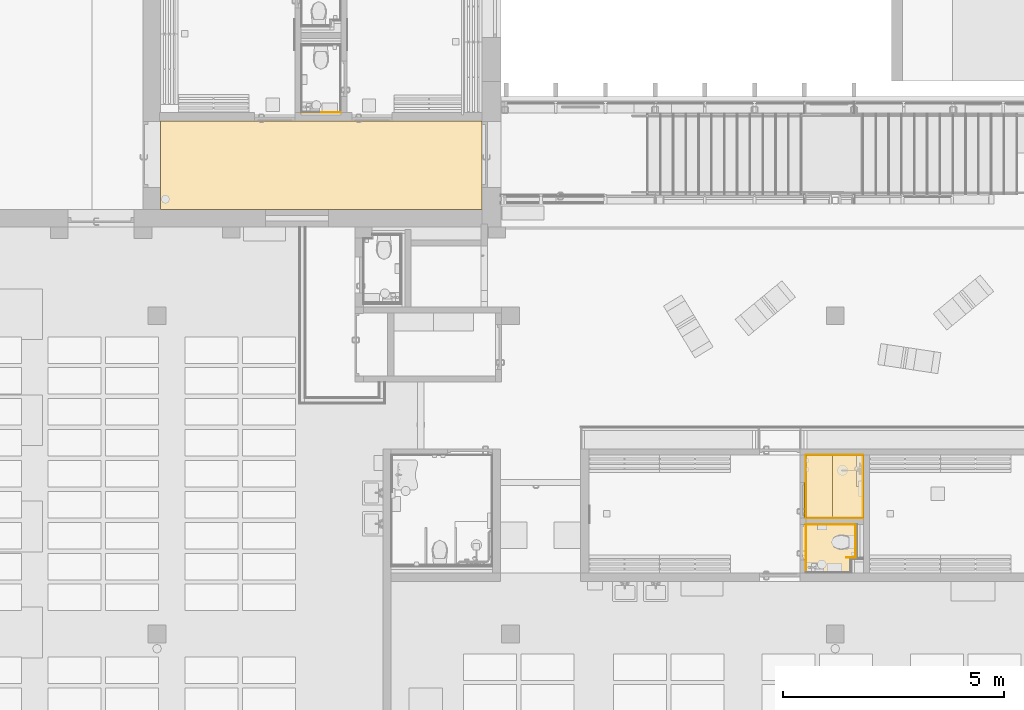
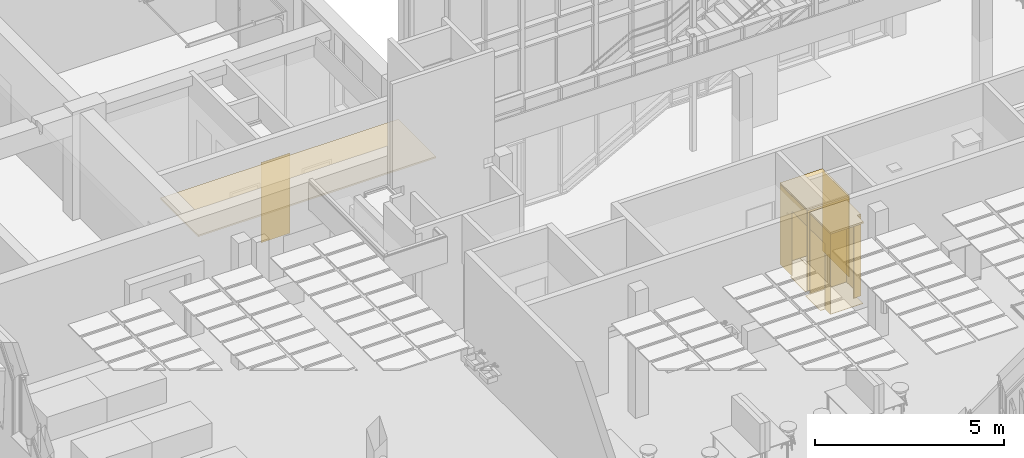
# One storey, part 234 of 301: 15 coverings, 2 openings.
"""IFC2X3 building model written with IfcOpenShell, lengths in millimetres."""

from ifc_helpers import new_model, entity, si_unit, converted_unit, derived_unit, money_unit, direction, frame, origin_with_axes, place, context, subcontext, project, spatial, faceted_brep, material, type_object, element, save


model = new_model("IFC2X3")

# Units and contexts
model_context = context("Model", 3, precision=0.01, world=origin_with_axes(), true_north=direction((0.0, 1.0)))
body_context = subcontext(model_context, "Body", "Model", "MODEL_VIEW")
ifc_project = project(units=[si_unit("LENGTHUNIT", "METRE", prefix="MILLI"), si_unit("AREAUNIT", "SQUARE_METRE"), si_unit("VOLUMEUNIT", "CUBIC_METRE"), converted_unit("PLANEANGLEUNIT", "DEGREE", entity("IfcPlaneAngleMeasure", 0.0174532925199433), si_unit("PLANEANGLEUNIT", "RADIAN"), dimensions=[0, 0, 0, 0, 0, 0, 0]), money_unit("EUR"), converted_unit("TIMEUNIT", "Year", entity("IfcTimeMeasure", 31557600.0), si_unit("TIMEUNIT", "SECOND"), dimensions=[0, 0, 1, 0, 0, 0, 0]), si_unit("MASSUNIT", "GRAM", prefix="KILO"), si_unit("THERMODYNAMICTEMPERATUREUNIT", "DEGREE_CELSIUS"), si_unit("LUMINOUSINTENSITYUNIT", "LUMEN"), si_unit("ENERGYUNIT", "JOULE", prefix="MEGA"), derived_unit("THERMALCONDUCTANCEUNIT", [(si_unit("POWERUNIT", "WATT"), 1), (si_unit("LENGTHUNIT", "METRE"), -1), (si_unit("THERMODYNAMICTEMPERATUREUNIT", "KELVIN"), -1)]), derived_unit("SPECIFICHEATCAPACITYUNIT", [(si_unit("ENERGYUNIT", "JOULE"), 1), (si_unit("MASSUNIT", "GRAM", prefix="KILO"), -1), (si_unit("THERMODYNAMICTEMPERATUREUNIT", "KELVIN"), -1)]), derived_unit("MASSDENSITYUNIT", [(si_unit("MASSUNIT", "GRAM", prefix="KILO"), 1), (si_unit("VOLUMEUNIT", "CUBIC_METRE"), -1)])], contexts=[model_context])

# Site, building, storey
site_placement = place(None, frame((0.0, 0.0, 8650.0), z_axis=(0.0, 0.0, 1.0), x_axis=(1.0, 0.0, 0.0)))
site = spatial("IfcSite", under=ifc_project, at=site_placement, Name="43301:001:0844", CompositionType="ELEMENT")
building_placement = place(site_placement, origin_with_axes())
building = spatial("IfcBuilding", under=site, at=building_placement, Name="Kuressaare Ametikooli tuulikute mehaanikute õppekorpus", CompositionType="ELEMENT")
storey_placement = place(building_placement, origin_with_axes())
storey = spatial("IfcBuildingStorey", under=building, at=storey_placement, Name="1.korrus", CompositionType="ELEMENT", Elevation=0.0)

# Coverings
ifc_material_1 = material(Name="GENEERILINE - KONSTRUKTRIOON")
covering_type_1 = type_object("IfcCoveringType", Name="GENEERILINE - KONSTRUKTRIOON 50", PredefinedType="CEILING")
covering_1_placement = place(storey_placement, frame((110555.5119581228, 19194.83585993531, 2600.0), z_axis=(0.0, 0.0, 1.0), x_axis=(1.0, 0.0, 0.0)))
element("IfcCovering", 1, at=covering_1_placement, inside=storey, type_object=covering_type_1, material=ifc_material_1, Name="RL2", PredefinedType="CEILING", context=body_context, shape_type="Brep", body=[
    faceted_brep([(0.0, 0.0, 49.99999999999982), (0.0, 0.0, 0.0), (1300.000321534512, 0.0, 0.0), (1300.000321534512, 0.0, 49.99999999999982), (0.0, 1430.000053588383, 49.99999999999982), (0.0, 1430.000053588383, 0.0), (1300.000321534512, 1430.000053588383, 0.0), (1300.000321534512, 1430.000053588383, 49.99999999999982)], [[[0, 1, 2, 3]], [[4, 5, 1, 0]], [[2, 1, 5, 6]], [[3, 2, 6, 7]], [[4, 0, 3, 7]], [[7, 6, 5, 4]]]),
])
covering_2_placement = place(storey_placement, frame((110555.512449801, 17954.83551160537, 2600.0), z_axis=(0.0, 0.0, 1.0), x_axis=(1.0, 0.0, 0.0)))
element("IfcCovering", 2, at=covering_2_placement, inside=storey, type_object=covering_type_1, material=ifc_material_1, Name="RL2", PredefinedType="CEILING", context=body_context, shape_type="Brep", body=[
    faceted_brep([(0.0, 0.0, 49.99999999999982), (0.0, 0.0, 0.0), (1009.999043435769, 0.0, 0.0), (1009.999043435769, 0.0, 49.99999999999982), (0.0, 1100.000367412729, 49.99999999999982), (0.0, 1100.000367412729, 0.0), (1130.000147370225, 1100.000367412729, 0.0), (1130.000078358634, 340.0016125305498, 0.0), (1009.998974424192, 340.0015881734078, 0.0), (1009.998974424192, 340.0015881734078, 49.99999999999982), (1130.000078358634, 340.0016125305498, 49.99999999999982), (1130.000147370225, 1100.000367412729, 49.99999999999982)], [[[0, 1, 2, 3]], [[4, 5, 1, 0]], [[2, 1, 5, 6, 7, 8]], [[3, 2, 8, 9]], [[4, 0, 3, 9, 10, 11]], [[11, 6, 5, 4]], [[10, 7, 6, 11]], [[9, 8, 7, 10]]]),
])
covering_3_placement = place(storey_placement, frame((95947.90111654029, 26183.06892395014, 2640.000017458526), z_axis=(0.0, 0.0, 1.0), x_axis=(1.0, 0.0, 0.0)))
element("IfcCovering", 3, at=covering_3_placement, inside=storey, type_object=covering_type_1, material=ifc_material_1, Name="RL1", PredefinedType="CEILING", context=body_context, shape_type="Brep", body=[
    faceted_brep([(0.0, 0.0, 49.99999999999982), (0.0, 0.0, 0.0), (7279.61109049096, 0.0, 0.0), (7279.61109049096, 0.0, 49.99999999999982), (0.0, 1999.999999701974, 49.99999999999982), (0.0, 1999.999999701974, 0.0), (7279.61109049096, 1999.999999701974, 0.0), (7279.61109049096, 1999.999999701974, 49.99999999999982)], [[[0, 1, 2, 3]], [[4, 5, 1, 0]], [[2, 1, 5, 6]], [[3, 2, 6, 7]], [[4, 0, 3, 7]], [[7, 6, 5, 4]]]),
])
ifc_material_2 = material(Name="SA_viimistluskiht")
covering_type_2 = type_object("IfcCoveringType", Name="SA_viimistluskiht 10", PredefinedType="CLADDING")
covering_4_placement = place(storey_placement, frame((111855.5122796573, 20624.83591352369, 0.0), z_axis=(0.0, 0.0, 1.0), x_axis=(9.45991917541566e-08, -0.9999999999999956, 0.0)))
element("IfcCovering", 4, at=covering_4_placement, inside=storey, type_object=covering_type_2, material=ifc_material_2, Name="S3", PredefinedType="CLADDING", context=body_context, shape_type="Brep", body=[
    faceted_brep([(1420.000052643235, -10.00013433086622, 2600.0), (1420.000053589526, 0.003019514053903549, 2600.0), (9.999999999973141, 2.126421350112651e-05, 2600.0), (10.00000042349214, -10.0000009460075, 2600.0), (1420.000053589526, 0.003019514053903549, 0.0), (1420.000052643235, -10.00013433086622, 0.0), (9.999999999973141, 2.126421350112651e-05, 0.0), (10.00000042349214, -10.0000009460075, 0.0)], [[[0, 1, 2, 3]], [[4, 1, 0, 5]], [[1, 4, 6, 2]], [[3, 2, 6, 7]], [[5, 0, 3, 7]], [[4, 5, 7, 6]]]),
])
covering_5_placement = place(storey_placement, frame((111855.5122796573, 20624.83591352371, 0.0), z_axis=(0.0, 0.0, 1.0), x_axis=(-0.9999999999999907, -1.369512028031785e-07, 0.0)))
element("IfcCovering", 5, at=covering_5_placement, inside=storey, type_object=covering_type_2, material=ifc_material_2, Name="S3", PredefinedType="CLADDING", context=body_context, shape_type="Brep", body=[
    faceted_brep([(1290.000321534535, -0.0006564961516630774, 0.0), (1290.000321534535, -0.0006564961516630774, 2600.0), (1.335820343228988e-09, -0.0006564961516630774, 2600.0), (1.335820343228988e-09, -0.0006564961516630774, 0.0), (1290.000321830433, 10.00000000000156, 2600.0), (1290.000321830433, 10.00000000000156, 0.0), (-2.084070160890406e-05, 10.00000000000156, 2600.0), (-2.084070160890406e-05, 10.00000000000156, 0.0)], [[[0, 1, 2, 3]], [[4, 1, 0, 5]], [[1, 4, 6, 2]], [[3, 2, 6, 7]], [[5, 0, 3, 7]], [[4, 5, 7, 6]]]),
])
covering_6_placement = place(storey_placement, frame((111855.5124149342, 19194.83585993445, 0.0), z_axis=(0.0, 0.0, 1.0), x_axis=(-0.999999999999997, -7.777395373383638e-08, 0.0)))
element("IfcCovering", 6, at=covering_6_placement, inside=storey, type_object=covering_type_2, material=ifc_material_2, Name="S3", PredefinedType="CLADDING", context=body_context, shape_type="Brep", body=[
    faceted_brep([(1290.000303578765, -10.00010032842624, 0.0), (1290.000303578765, -10.00010032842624, 2600.0), (-0.003019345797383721, -9.999999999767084, 2600.0), (-0.003019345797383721, -9.999999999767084, 0.0), (1290.000303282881, -2.958913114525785e-07, 2600.0), (1290.000303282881, -2.958913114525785e-07, 0.0), (-0.003040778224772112, 2.344791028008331e-10, 2600.0), (-0.003040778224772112, 2.344791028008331e-10, 0.0)], [[[0, 1, 2, 3]], [[4, 1, 0, 5]], [[1, 4, 6, 2]], [[3, 2, 6, 7]], [[5, 0, 3, 7]], [[4, 5, 7, 6]]]),
])

# Covering, opening
covering_7_placement = place(storey_placement, frame((110555.512226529, 17954.83717730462, 0.0), z_axis=(0.0, 0.0, 1.0), x_axis=(-1.073625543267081e-07, 0.9999999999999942, 0.0)))
covering_7 = element("IfcCovering", 7, at=covering_7_placement, inside=storey, type_object=covering_type_2, material=ifc_material_2, Name="S3", PredefinedType="CLADDING", context=body_context, shape_type="Brep", body=[
    faceted_brep([(289.9983343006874, -10.00000000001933, 0.0), (289.9983343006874, -10.00000000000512, 2110.0), (1089.998290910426, -10.00000000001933, 2110.0), (1089.998290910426, -10.00000000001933, 2600.0), (9.999987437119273, -10.00000000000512, 2600.0), (9.999987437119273, -10.00000000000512, 0.0), (289.9983343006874, 0.0, 0.0), (289.9983343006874, 0.0, 2110.0), (1089.998288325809, 0.0, 2110.0), (1089.998288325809, -0.0002278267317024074, 2600.0), (9.999999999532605, -0.0003733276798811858, 2600.0), (9.999999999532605, -0.0003733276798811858, 0.0)], [[[0, 1, 2, 3, 4, 5]], [[1, 0, 6, 7]], [[8, 2, 1, 7]], [[2, 8, 9, 3]], [[4, 3, 9, 10]], [[4, 10, 11, 5]], [[6, 0, 5, 11]], [[7, 6, 11, 10, 9, 8]]]),
])
opening_1_placement = place(covering_7_placement, frame((694.9983343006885, 0.0, 0.0), z_axis=(0.0, 0.0, 1.0), x_axis=(1.0, 0.0, 0.0)))
element("IfcOpeningElement", 8, at=opening_1_placement, cuts=covering_7, Name="ava", context=body_context, shape_type="Brep", body=[
    faceted_brep([(-405.0000000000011, 0.0, 2110.0), (404.9999999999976, 0.0, 2110.0), (405.0000000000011, 1.000118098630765, 2110.0), (-405.0000000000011, 1.000118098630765, 2110.0), (-405.0000000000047, -11.00011809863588, 2110.0), (404.9999999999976, -11.00011809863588, 2110.0), (404.9999999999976, 0.0, 0.0), (405.0000000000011, 1.000118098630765, 0.0), (-405.0000000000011, 1.000118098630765, 0.0), (-405.0000000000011, 0.0, 0.0), (-405.0000000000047, -11.00011809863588, 0.0), (404.9999999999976, -11.00011809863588, 0.0)], [[[0, 1, 2, 3]], [[1, 0, 4, 5]], [[1, 6, 7, 2]], [[7, 8, 3, 2]], [[9, 0, 3, 8]], [[0, 9, 10, 4]], [[4, 10, 11, 5]], [[6, 1, 5, 11]], [[6, 9, 8, 7]], [[9, 6, 11, 10]]]),
])

covering_8_placement = place(storey_placement, frame((110555.5121116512, 19194.83575882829, 0.0), z_axis=(0.0, 0.0, 1.0), x_axis=(-1.073625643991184e-07, 0.9999999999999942, 0.0)))
covering_8 = element("IfcCovering", 9, at=covering_8_placement, inside=storey, type_object=covering_type_2, material=ifc_material_2, Name="S3", PredefinedType="CLADDING", context=body_context, shape_type="Brep", body=[
    faceted_brep([(810.00000000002, -10.00000000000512, 2110.0), (810.00000000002, -10.00000000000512, 0.0), (1430.000633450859, -10.00000000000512, 0.0), (1430.000633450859, -10.00000000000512, 2600.0), (0.0, -10.00000000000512, 2600.0), (0.0, -10.00000000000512, 2110.0), (810.0000000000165, 0.0, 2110.0), (810.0000000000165, 0.0, 0.0), (1430.000633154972, 0.0, 0.0), (1430.000633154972, 0.0, 2600.0), (0.0, 0.0, 2600.0), (0.0, 0.0, 2110.0)], [[[0, 1, 2, 3, 4, 5]], [[1, 0, 6, 7]], [[1, 7, 8, 2]], [[3, 2, 8, 9]], [[9, 10, 4, 3]], [[11, 5, 4, 10]], [[0, 5, 11, 6]], [[6, 11, 10, 9, 8, 7]]]),
])
opening_2_placement = place(covering_8_placement, frame((405.0000000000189, 0.0, 0.0), z_axis=(0.0, 0.0, 1.0), x_axis=(1.0, 0.0, 0.0)))
element("IfcOpeningElement", 10, at=opening_2_placement, cuts=covering_8, Name="ava", context=body_context, shape_type="Brep", body=[
    faceted_brep([(-404.9999999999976, 0.0, 2110.0), (404.9999999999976, 0.0, 2110.0), (404.9999999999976, 1.000153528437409, 2110.0), (-405.0000000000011, 1.000153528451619, 2110.0), (-405.0000000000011, -11.00015352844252, 2110.0), (404.9999999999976, -11.00015352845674, 2110.0), (404.9999999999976, 0.0, 0.0), (404.9999999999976, 1.000153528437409, 0.0), (-405.0000000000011, 1.000153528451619, 0.0), (-404.9999999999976, 0.0, 0.0), (-405.0000000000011, -11.00015352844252, 0.0), (404.9999999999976, -11.00015352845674, 0.0)], [[[0, 1, 2, 3]], [[1, 0, 4, 5]], [[1, 6, 7, 2]], [[7, 8, 3, 2]], [[9, 0, 3, 8]], [[0, 9, 10, 4]], [[4, 10, 11, 5]], [[6, 1, 5, 11]], [[6, 9, 8, 7]], [[9, 6, 11, 10]]]),
])

# Coverings
covering_9_placement = place(storey_placement, frame((111685.5123738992, 19054.8358790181, 0.0), z_axis=(0.0, 0.0, 1.0), x_axis=(2.029745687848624e-07, -0.9999999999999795, 0.0)))
element("IfcCovering", 11, at=covering_9_placement, inside=storey, type_object=covering_type_2, material=ifc_material_2, Name="S3", PredefinedType="CLADDING", context=body_context, shape_type="Brep", body=[
    faceted_brep([(749.998752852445, -10.00000000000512, 2600.0), (749.9987548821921, 0.0, 2600.0), (9.99999999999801, 0.0, 2600.0), (10.00000162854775, -10.00000000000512, 2600.0), (749.9987548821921, 0.0, 0.0), (749.998752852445, -10.00000000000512, 0.0), (9.99999999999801, 0.0, 0.0), (10.00000162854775, -10.00000000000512, 0.0)], [[[0, 1, 2, 3]], [[4, 1, 0, 5]], [[1, 4, 6, 2]], [[3, 2, 6, 7]], [[5, 0, 3, 7]], [[4, 5, 7, 6]]]),
])
covering_10_placement = place(storey_placement, frame((111685.5123738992, 19054.8358790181, 0.0), z_axis=(0.0, 0.0, 1.0), x_axis=(-0.9999999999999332, -3.658297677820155e-07, 0.0)))
element("IfcCovering", 12, at=covering_10_placement, inside=storey, type_object=covering_type_2, material=ifc_material_2, Name="S3", PredefinedType="CLADDING", context=body_context, shape_type="Brep", body=[
    faceted_brep([(1130.000038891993, 9.999999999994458, 2600.0), (1.628521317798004e-06, 9.999999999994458, 2600.0), (0.0, 6.590685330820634e-05, 2600.0), (1130.000037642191, 9.581725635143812e-06, 2600.0), (1130.000038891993, 9.999999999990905, 0.0), (1.628521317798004e-06, 9.999999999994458, 0.0), (0.0, 6.463435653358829e-05, 0.0), (1130.000037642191, 9.581725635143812e-06, 0.0)], [[[0, 1, 2, 3]], [[4, 5, 1, 0]], [[5, 6, 2, 1]], [[3, 2, 6, 7]], [[4, 0, 3, 7]], [[7, 6, 5, 4]]]),
])
covering_11_placement = place(storey_placement, frame((99129.54227007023, 28373.0690393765, 0.0), z_axis=(0.0, 0.0, 1.0), x_axis=(0.9999999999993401, 1.148925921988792e-06, 0.0)))
element("IfcCovering", 13, at=covering_11_placement, inside=storey, type_object=covering_type_2, material=ifc_material_2, Name="S3", PredefinedType="CLADDING", context=body_context, shape_type="Brep", body=[
    faceted_brep([(898.1643943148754, -0.001031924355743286, 2600.0), (898.164405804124, 9.998968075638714, 2600.0), (10.00005120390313, 9.99998851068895, 2600.0), (10.00000000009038, -1.148925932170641e-05, 2600.0), (898.1643943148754, -0.001031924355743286, 0.0), (898.164405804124, 9.998968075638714, 0.0), (10.00005120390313, 9.99998851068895, 0.0), (10.00000000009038, -1.148925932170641e-05, 0.0)], [[[0, 1, 2, 3]], [[1, 0, 4, 5]], [[1, 5, 6, 2]], [[7, 3, 2, 6]], [[4, 0, 3, 7]], [[5, 4, 7, 6]]]),
])
covering_12_placement = place(storey_placement, frame((111685.5125281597, 18294.83712413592, 0.0), z_axis=(0.0, 0.0, 1.0), x_axis=(-1.0, 0.0, 0.0)))
element("IfcCovering", 14, at=covering_12_placement, inside=storey, type_object=covering_type_2, material=ifc_material_2, Name="S3", PredefinedType="CLADDING", context=body_context, shape_type="Brep", body=[
    faceted_brep([(0.0, 0.0, 2600.0), (2.029750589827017e-06, -10.00000000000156, 2600.0), (220.0011039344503, -10.00000000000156, 2600.0), (220.0011039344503, 0.0, 2600.0), (2.029750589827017e-06, -10.00000000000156, 0.0), (0.0, 0.0, 0.0), (220.0011039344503, -10.00000000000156, 0.0), (220.0011039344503, 0.0, 0.0)], [[[0, 1, 2, 3]], [[4, 1, 0, 5]], [[1, 4, 6, 2]], [[2, 6, 7, 3]], [[5, 0, 3, 7]], [[4, 5, 7, 6]]]),
])
covering_type_3 = type_object("IfcCoveringType", Name="GENEERILINE - KONSTRUKTRIOON 10", PredefinedType="FLOORING")
covering_13_placement = place(storey_placement, frame((111695.512274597, 20614.83590533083, 0.0), z_axis=(0.0, 0.0, 1.0), x_axis=(1.0, 0.0, 0.0)))
element("IfcCovering", 15, at=covering_13_placement, inside=storey, type_object=covering_type_3, material=ifc_material_1, Name="P3b", PredefinedType="FLOORING", context=body_context, shape_type="Brep", body=[
    faceted_brep([(0.0, 0.0, 0.0), (0.0, 0.0, -10.0), (-540.6150992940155, -8.52347490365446e-05, -10.0), (-540.6150992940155, -8.52347490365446e-05, 0.0), (-0.0008097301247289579, -699.9998614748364, 0.0), (-0.0008097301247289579, -699.9998614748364, -10.0), (150.0001392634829, -700.0000532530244, -10.0), (150.0001392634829, -1410.000047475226, -10.0), (-540.6149539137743, -1410.000026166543, -10.0), (-540.6149539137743, -1410.000026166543, 0.0), (150.0001392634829, -1410.000047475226, 0.0), (150.0001392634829, -700.0000532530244, 0.0)], [[[0, 1, 2, 3]], [[4, 5, 1, 0]], [[2, 1, 5, 6, 7, 8]], [[3, 2, 8, 9]], [[4, 0, 3, 9, 10, 11]], [[11, 6, 5, 4]], [[10, 7, 6, 11]], [[9, 8, 7, 10]]]),
])
covering_14_placement = place(storey_placement, frame((110505.5120104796, 20004.83575882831, 0.0), z_axis=(0.0, 0.0, 1.0), x_axis=(1.0, 0.0, 0.0)))
element("IfcCovering", 16, at=covering_14_placement, inside=storey, type_object=covering_type_3, material=ifc_material_1, Name="P3b", PredefinedType="FLOORING", context=body_context, shape_type="Brep", body=[
    faceted_brep([(0.0, 0.0, 0.0), (0.0, 0.0, -10.0), (-4.261738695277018e-05, -799.9998796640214, -10.0), (-4.261738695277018e-05, -799.9998796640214, 0.0), (60.00001562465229, 0.0, 0.0), (60.00001562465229, 0.0, -10.0), (59.99995654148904, 609.9999760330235, -10.0), (649.3851648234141, 610.0000672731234, -10.0), (649.3853102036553, -799.9998796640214, -10.0), (649.3853102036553, -799.9998796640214, 0.0), (649.3851648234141, 610.0000672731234, 0.0), (59.99995654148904, 609.9999760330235, 0.0)], [[[0, 1, 2, 3]], [[4, 5, 1, 0]], [[2, 1, 5, 6, 7, 8]], [[3, 2, 8, 9]], [[4, 0, 3, 9, 10, 11]], [[11, 6, 5, 4]], [[10, 7, 6, 11]], [[9, 8, 7, 10]]]),
])
covering_15_placement = place(storey_placement, frame((110565.5121722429, 17964.83602837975, 0.0), z_axis=(0.0, 0.0, 1.0), x_axis=(1.0, 0.0, 0.0)))
element("IfcCovering", 17, at=covering_15_placement, inside=storey, type_object=covering_type_3, material=ifc_material_1, Name="P3a", PredefinedType="FLOORING", context=body_context, shape_type="Brep", body=[
    faceted_brep([(0.0, 0.0, 0.0), (0.0, 0.0, -10.0), (999.9992519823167, 0.0, -10.0), (999.9992519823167, 0.0, 0.0), (1.653384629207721e-05, 279.999480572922, 0.0), (1.653384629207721e-05, 279.999480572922, -10.0), (-149.9999585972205, 279.9994894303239, -10.0), (-150.0000444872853, 1079.999846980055, -10.0), (1110.000422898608, 1079.999846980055, -10.0), (1110.000422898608, 340.0010957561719, -10.0), (999.9992519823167, 340.0010957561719, -10.0), (999.9992519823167, 340.0010957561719, 0.0), (1110.000422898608, 340.0010957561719, 0.0), (1110.000422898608, 1079.999846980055, 0.0), (-150.0000444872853, 1079.999846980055, 0.0), (-149.9999585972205, 279.9994894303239, 0.0)], [[[0, 1, 2, 3]], [[4, 5, 1, 0]], [[2, 1, 5, 6, 7, 8, 9, 10]], [[3, 2, 10, 11]], [[4, 0, 3, 11, 12, 13, 14, 15]], [[15, 6, 5, 4]], [[14, 7, 6, 15]], [[13, 8, 7, 14]], [[12, 9, 8, 13]], [[11, 10, 9, 12]]]),
])

save(model, "model.ifc")
